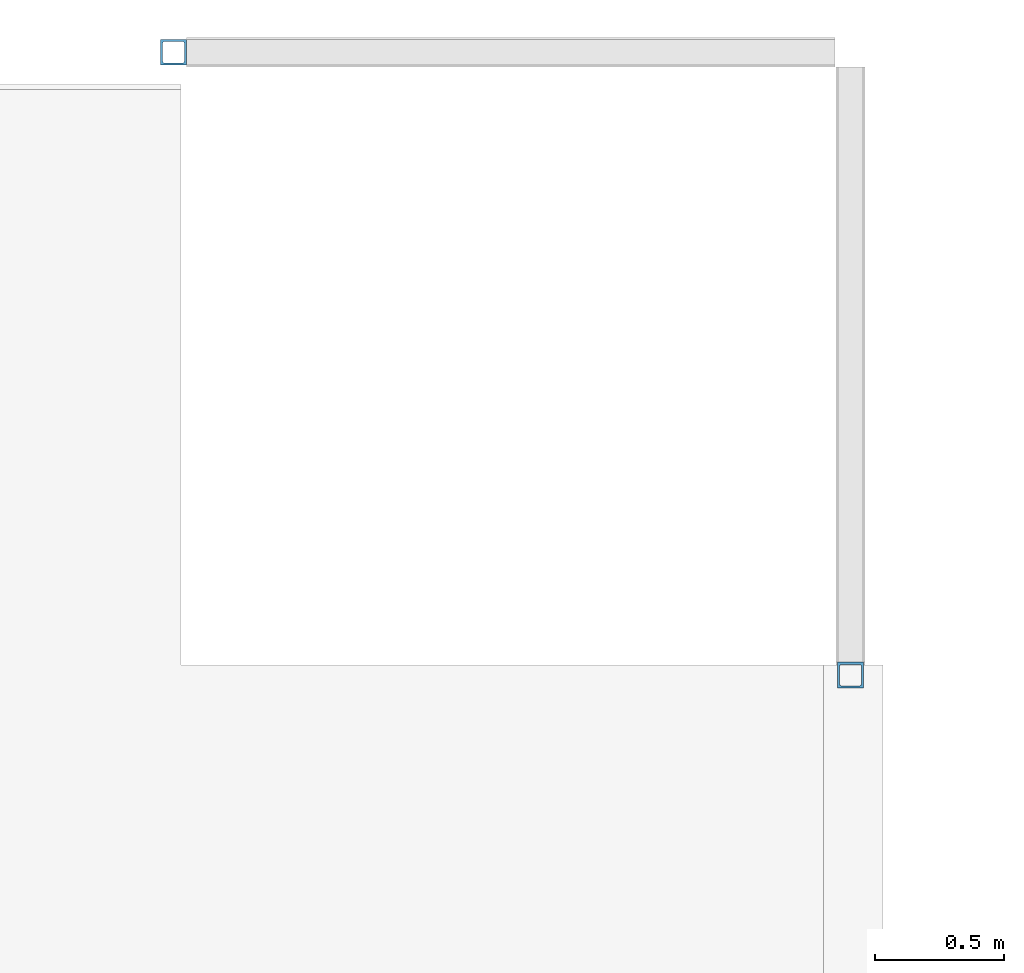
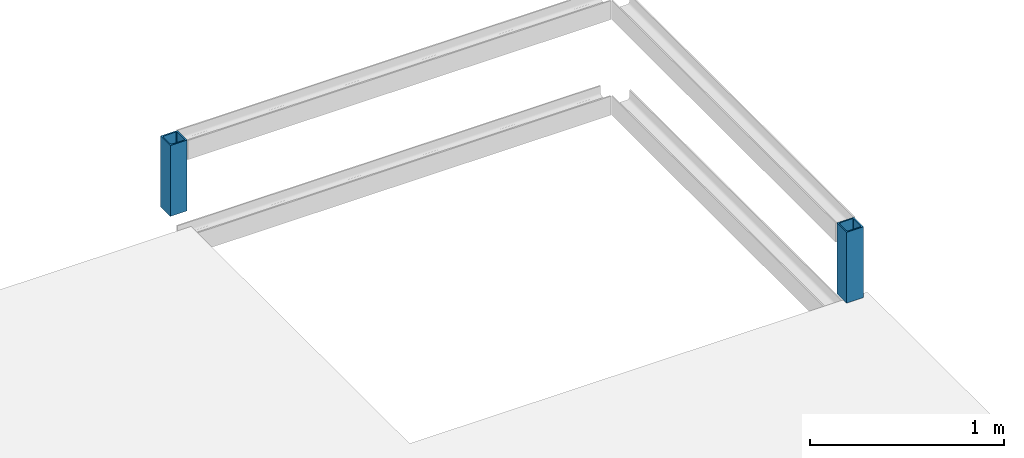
# One storey, part 7 of 36: 2 columns.
"""IFC2X3 building model written with IfcOpenShell, lengths in millimetres."""

from ifc_helpers import new_model, entity, si_unit, converted_unit, derived_unit, direction, frame, frame_2d, origin, place, context, subcontext, project, spatial, polyline, circle_curve, parameter, trimmed, segment, composite_curve, outline, extrude, source, transform, mapped, material, type_object, type_shapes, element, save


model = new_model("IFC2X3")

# Units and contexts
model_context = context("Model", 3, precision=0.01, world=origin(), true_north=direction((6.12303176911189e-17, 1.0)))
body_context = subcontext(model_context, "Body", "Model", "MODEL_VIEW")
ifc_project = project(units=[si_unit("LENGTHUNIT", "METRE", prefix="MILLI"), si_unit("AREAUNIT", "SQUARE_METRE"), si_unit("VOLUMEUNIT", "CUBIC_METRE"), converted_unit("PLANEANGLEUNIT", "DEGREE", entity("IfcRatioMeasure", 0.0174532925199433), si_unit("PLANEANGLEUNIT", "RADIAN"), dimensions=[0, 0, 0, 0, 0, 0, 0]), si_unit("MASSUNIT", "GRAM", prefix="KILO"), derived_unit("MASSDENSITYUNIT", [(si_unit("MASSUNIT", "GRAM", prefix="KILO"), 1), (si_unit("LENGTHUNIT", "METRE"), -3)]), si_unit("TIMEUNIT", "SECOND"), si_unit("FREQUENCYUNIT", "HERTZ"), si_unit("THERMODYNAMICTEMPERATUREUNIT", "DEGREE_CELSIUS"), derived_unit("THERMALTRANSMITTANCEUNIT", [(si_unit("MASSUNIT", "GRAM", prefix="KILO"), 1), (si_unit("THERMODYNAMICTEMPERATUREUNIT", "KELVIN"), -1), (si_unit("TIMEUNIT", "SECOND"), -3)]), derived_unit("VOLUMETRICFLOWRATEUNIT", [(si_unit("LENGTHUNIT", "METRE"), 3), (si_unit("TIMEUNIT", "SECOND"), -1)]), si_unit("ELECTRICCURRENTUNIT", "AMPERE"), si_unit("ELECTRICVOLTAGEUNIT", "VOLT"), si_unit("POWERUNIT", "WATT"), si_unit("FORCEUNIT", "NEWTON", prefix="KILO"), si_unit("ILLUMINANCEUNIT", "LUX"), si_unit("LUMINOUSFLUXUNIT", "LUMEN"), si_unit("LUMINOUSINTENSITYUNIT", "CANDELA"), derived_unit("USERDEFINED", [(si_unit("MASSUNIT", "GRAM", prefix="KILO"), -1), (si_unit("LENGTHUNIT", "METRE"), -2), (si_unit("TIMEUNIT", "SECOND"), 3), (si_unit("LUMINOUSFLUXUNIT", "LUMEN"), 1)]), derived_unit("LINEARVELOCITYUNIT", [(si_unit("LENGTHUNIT", "METRE"), 1), (si_unit("TIMEUNIT", "SECOND"), -1)]), si_unit("PRESSUREUNIT", "PASCAL"), derived_unit("USERDEFINED", [(si_unit("LENGTHUNIT", "METRE"), -2), (si_unit("MASSUNIT", "GRAM", prefix="KILO"), 1), (si_unit("TIMEUNIT", "SECOND"), -2)])], contexts=[model_context])

# Site, building, storey
site_placement = place(None, origin())
site = spatial("IfcSite", under=ifc_project, at=site_placement, Name="Default", CompositionType="ELEMENT")
building_placement = place(site_placement, origin())
building = spatial("IfcBuilding", under=site, at=building_placement, Name="niet gebruiken", CompositionType="ELEMENT")
storey_placement = place(building_placement, frame((0.0, 0.0, 12600.0)))
storey = spatial("IfcBuildingStorey", under=building, at=storey_placement, Name="04 vierde verdieping", CompositionType="ELEMENT", Elevation=12600.0)

# Columns
ifc_material = material(Name="NLRS_h2_staal")
column_type = type_object("IfcColumnType", Name="kolom buisprofiel warmgevormd vierkant SHSH_100x100x8", PredefinedType="COLUMN", material=ifc_material)
shared_shape = source(origin(), body_context, "Body", "SweptSolid", [
    extrude(outline(polyline([(-50.0, -50.0), (50.0, -50.0), (50.0, 50.0), (-50.0, 50.0), (-50.0, -50.0)]), holes=[composite_curve([segment(trimmed(circle_curve(frame_2d((-34.0, -34.0), x_axis=(0.0, 1.0)), 8.0), [parameter(90.0000000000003)], [parameter(180.0)], True, "PARAMETER"), False, "CONTINUOUS"), segment(polyline([(-42.0, -34.0), (-42.0, 34.0)]), True, "CONTINUOUS"), segment(trimmed(circle_curve(frame_2d((-34.0, 34.0), x_axis=(0.0, 1.0)), 8.0), [parameter(360.0)], [parameter(89.9999999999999)], True, "PARAMETER"), False, "CONTINUOUS"), segment(polyline([(-34.0, 42.0), (34.0, 42.0)]), True, "CONTINUOUS"), segment(trimmed(circle_curve(frame_2d((34.0, 34.0), x_axis=(0.0, 1.0)), 8.0), [parameter(270.0)], [parameter(360.0)], True, "PARAMETER"), False, "CONTINUOUS"), segment(polyline([(42.0, 34.0), (42.0, -34.0)]), True, "CONTINUOUS"), segment(trimmed(circle_curve(frame_2d((34.0, -34.0), x_axis=(0.0, 1.0)), 8.0), [parameter(180.0)], [parameter(270.0)], True, "PARAMETER"), False, "CONTINUOUS"), segment(polyline([(34.0, -42.0), (-34.0, -42.0)]), True, "CONTINUOUS")], self_intersect=False)]), frame((0.0, 0.0, 12555.0), z_axis=(0.0, 0.0, 1.0), x_axis=(0.0, -1.0, 0.0)), (0.0, 0.0, 1.0), 445.000000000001),
])
type_shapes(column_type, [shared_shape])
for number, where, z_axis, x_axis, name in (
    (1, (26975.0, 50716.0007019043, -12600.0), (0.0, 0.0, 1.0), (-1.0, 0.0, 0.0), "NLRS_28.11_SCO_TLB_stalen kolom buisprofiel warmgevormd vierkant_gen:kolom buisprofiel warmgevormd vierkant SHSH_100x100x8"),
    (2, (24350.0, 53131.0, -12600.0), (0.0, 0.0, 1.0), (-1.0, 0.0, 0.0), "NLRS_28.11_SCO_TLB_stalen kolom buisprofiel warmgevormd vierkant_gen:kolom buisprofiel warmgevormd vierkant SHSH_100x100x8"),
):
    element("IfcColumn", number, at=place(storey_placement, frame(where, z_axis=z_axis, x_axis=x_axis)), inside=storey, type_object=column_type, material=ifc_material, Name=name, ObjectType="kolom buisprofiel warmgevormd vierkant SHSH_100x100x8", context=body_context, shape_type="MappedRepresentation", body=[
        mapped(shared_shape, transform((0.0, 0.0, 0.0), scale=1.0)),
    ])

save(model, "model.ifc")
